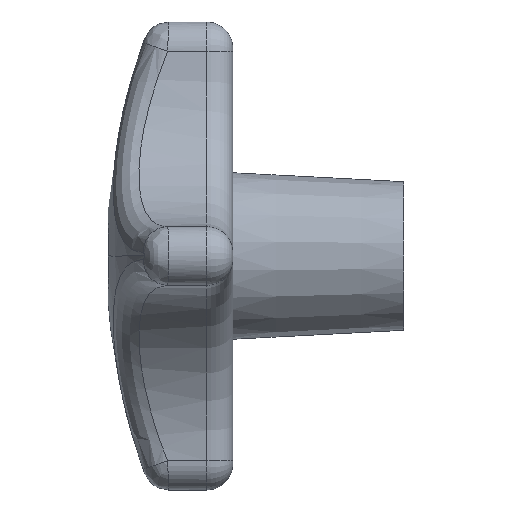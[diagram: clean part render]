
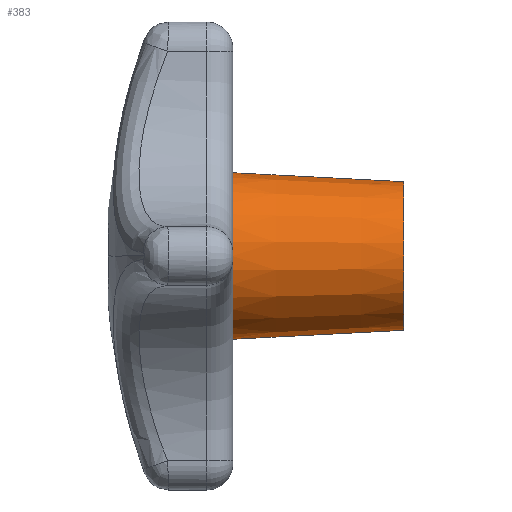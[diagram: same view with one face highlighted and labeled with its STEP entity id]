
A CAD part, left-side view. The second image highlights one B-rep face of the part: STEP entity #383.
In plain terms, the highlighted conical face has half-angle 3 degrees and reference radius 10 mm.
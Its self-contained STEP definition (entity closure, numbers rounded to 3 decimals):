
#334 = ORIENTED_EDGE ( 'NONE', *, *, #1228, .T. ) ;
#335 = EDGE_CURVE ( 'NONE', #1237, #1242, #3578, .T. ) ;
#337 = ORIENTED_EDGE ( 'NONE', *, *, #335, .T. ) ;
#338 = EDGE_LOOP ( 'NONE', ( #340, #337, #334, #339 ) ) ;
#339 = ORIENTED_EDGE ( 'NONE', *, *, #392, .F. ) ;
#340 = ORIENTED_EDGE ( 'NONE', *, *, #1234, .F. ) ;
#383 = ADVANCED_FACE ( 'NONE', ( #3632 ), #3631, .T. ) ;
#392 = EDGE_CURVE ( 'NONE', #1161, #1227, #3620, .T. ) ;
#1161 = VERTEX_POINT ( 'NONE', #5916 ) ;
#1227 = VERTEX_POINT ( 'NONE', #6126 ) ;
#1228 = EDGE_CURVE ( 'NONE', #1242, #1227, #6119, .T. ) ;
#1234 = EDGE_CURVE ( 'NONE', #1237, #1161, #6167, .T. ) ;
#1237 = VERTEX_POINT ( 'NONE', #6162 ) ;
#1242 = VERTEX_POINT ( 'NONE', #6147 ) ;
#3574 = DIRECTION ( 'NONE',  ( 0., 0., 1. ) ) ;
#3575 = DIRECTION ( 'NONE',  ( 0., 1., 0. ) ) ;
#3576 = CARTESIAN_POINT ( 'NONE',  ( 0., -23., 0. ) ) ;
#3577 = AXIS2_PLACEMENT_3D ( 'NONE', #3576, #3575, #3574 ) ;
#3578 = CIRCLE ( 'NONE', #3577, 10. ) ;
#3614 = DIRECTION ( 'NONE',  ( 0., 0., 1. ) ) ;
#3616 = DIRECTION ( 'NONE',  ( 0., 1., 0. ) ) ;
#3618 = CARTESIAN_POINT ( 'NONE',  ( 0., 0., 0. ) ) ;
#3619 = AXIS2_PLACEMENT_3D ( 'NONE', #3618, #3616, #3614 ) ;
#3620 = CIRCLE ( 'NONE', #3619, 11.205 ) ;
#3626 = DIRECTION ( 'NONE',  ( 0., 0., 1. ) ) ;
#3627 = DIRECTION ( 'NONE',  ( 0., 1., 0. ) ) ;
#3628 = AXIS2_PLACEMENT_3D ( 'NONE', #3629, #3627, #3626 ) ;
#3629 = CARTESIAN_POINT ( 'NONE',  ( 0., -23., 0. ) ) ;
#3631 = CONICAL_SURFACE ( 'NONE', #3628, 10., 0.052 ) ;
#3632 = FACE_OUTER_BOUND ( 'NONE', #338, .T. ) ;
#5916 = CARTESIAN_POINT ( 'NONE',  ( 0., 0., -11.205 ) ) ;
#6116 = DIRECTION ( 'NONE',  ( 0., 0.999, 0.052 ) ) ;
#6117 = VECTOR ( 'NONE', #6116, 1000. ) ;
#6118 = CARTESIAN_POINT ( 'NONE',  ( 0., -23., 10. ) ) ;
#6119 = LINE ( 'NONE', #6118, #6117 ) ;
#6126 = CARTESIAN_POINT ( 'NONE',  ( 0., 0., 11.205 ) ) ;
#6147 = CARTESIAN_POINT ( 'NONE',  ( 0., -23., 10. ) ) ;
#6162 = CARTESIAN_POINT ( 'NONE',  ( 0., -23., -10. ) ) ;
#6164 = DIRECTION ( 'NONE',  ( 0., 0.999, -0.052 ) ) ;
#6165 = VECTOR ( 'NONE', #6164, 1000. ) ;
#6166 = CARTESIAN_POINT ( 'NONE',  ( 0., -23., -10. ) ) ;
#6167 = LINE ( 'NONE', #6166, #6165 ) ;
